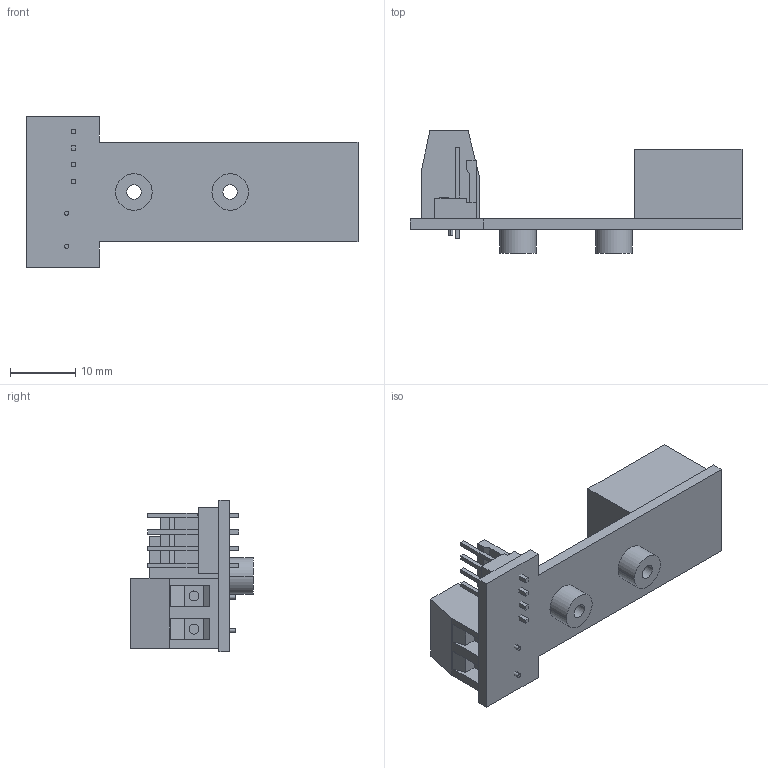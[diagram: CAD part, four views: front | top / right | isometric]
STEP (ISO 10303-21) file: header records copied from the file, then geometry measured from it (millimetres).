
FILE_DESCRIPTION((''),'2;1');
FILE_NAME('USB485_ASM','2008-10-01T',('yeevh'),(''),'PRO/ENGINEER BY PARAMETRIC TECHNOLOGY CORPORATION, 2006300','PRO/ENGINEER BY PARAMETRIC TECHNOLOGY CORPORATION, 2006300','');
FILE_SCHEMA(('CONFIG_CONTROL_DESIGN'));
Length unit declared in the file: inch
Products named in the file (5): PCB_7; CONNECTOR_USB485; CONNECTOR_4PIN; CONNECTOR_2_WIRE; USB485_ASM
Assembly tree (4 placements, depth 2):
  USB485_ASM
    PCB_7
    CONNECTOR_USB485
    CONNECTOR_4PIN
    CONNECTOR_2_WIRE
Bounding box: 50.8 x 18.69 x 23.11 mm (x, y, z)
Volume: 4497.1 mm3; surface area: 4960.6 mm2
Topology: 4 solids, 4 shells, 182 faces, 445 edges, 294 vertices
Faces by surface type: plane 158, cylinder 24
Entity records: 5428 total; most frequent: CARTESIAN_POINT 930, ORIENTED_EDGE 890, DIRECTION 883, EDGE_CURVE 445, VECTOR 389, LINE 389, VERTEX_POINT 294, AXIS2_PLACEMENT_3D 247
